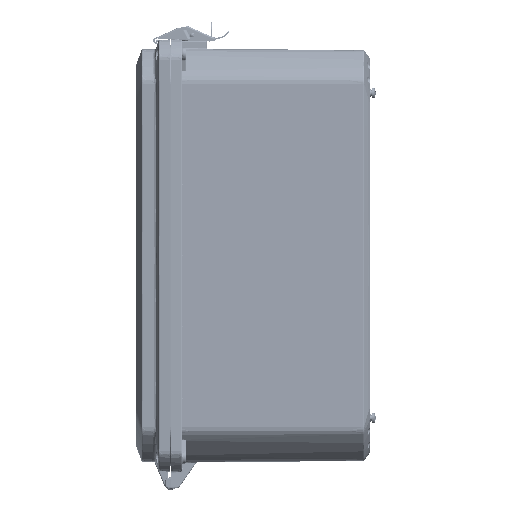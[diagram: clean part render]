
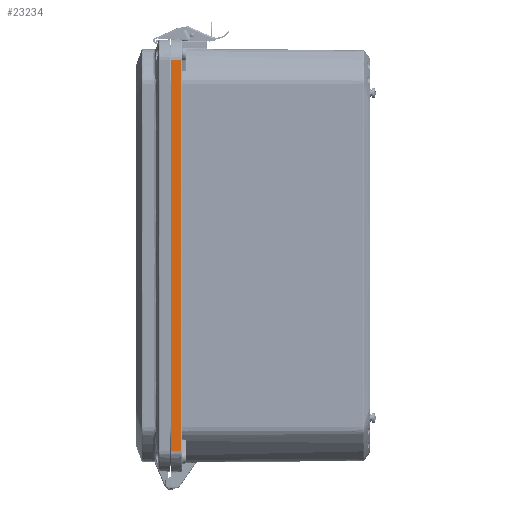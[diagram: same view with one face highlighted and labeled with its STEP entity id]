
A CAD part, left-side view. The second image highlights one B-rep face of the part: STEP entity #23234.
In plain terms, the highlighted planar face has unit normal (-0.999, -0.035, 0).
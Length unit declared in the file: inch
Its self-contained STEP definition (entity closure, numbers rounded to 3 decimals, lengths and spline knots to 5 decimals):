
#9098 = VECTOR ( 'NONE', #68903, 39.37008 ) ;
#19173 = LINE ( 'NONE', #111084, #161129 ) ;
#23234 = ADVANCED_FACE ( 'NONE', ( #142870 ), #234839, .T. ) ;
#41000 = EDGE_CURVE ( 'NONE', #51443, #263205, #127404, .T. ) ;
#44179 = ORIENTED_EDGE ( 'NONE', *, *, #268384, .F. ) ;
#44683 = CARTESIAN_POINT ( 'NONE',  ( -8.60772, -0.35174, -6.89046 ) ) ;
#51120 = EDGE_CURVE ( 'NONE', #51443, #80361, #94468, .T. ) ;
#51443 = VERTEX_POINT ( 'NONE', #104861 ) ;
#56845 = CARTESIAN_POINT ( 'NONE',  ( -8.62, 0., 6.89046 ) ) ;
#68903 = DIRECTION ( 'NONE',  ( 0., 0., 1. ) ) ;
#80361 = VERTEX_POINT ( 'NONE', #56845 ) ;
#94468 = LINE ( 'NONE', #230211, #9098 ) ;
#97624 = DIRECTION ( 'NONE',  ( -0.999, -0.035, 0. ) ) ;
#102344 = LINE ( 'NONE', #218370, #164880 ) ;
#104473 = CARTESIAN_POINT ( 'NONE',  ( -8.60772, -0.35174, 6.89046 ) ) ;
#104861 = CARTESIAN_POINT ( 'NONE',  ( -8.62, 0., -6.89046 ) ) ;
#107986 = DIRECTION ( 'NONE',  ( 0.035, -0.999, 0. ) ) ;
#111084 = CARTESIAN_POINT ( 'NONE',  ( -8.62, 0., 6.89046 ) ) ;
#121975 = DIRECTION ( 'NONE',  ( 0., 0., 1. ) ) ;
#127404 = LINE ( 'NONE', #217847, #187688 ) ;
#142870 = FACE_OUTER_BOUND ( 'NONE', #225108, .T. ) ;
#161129 = VECTOR ( 'NONE', #203031, 39.37008 ) ;
#164880 = VECTOR ( 'NONE', #121975, 39.37008 ) ;
#170617 = ORIENTED_EDGE ( 'NONE', *, *, #41000, .T. ) ;
#171115 = DIRECTION ( 'NONE',  ( 0.035, -0.999, 0. ) ) ;
#186368 = ORIENTED_EDGE ( 'NONE', *, *, #242901, .T. ) ;
#187688 = VECTOR ( 'NONE', #171115, 39.37008 ) ;
#188080 = CARTESIAN_POINT ( 'NONE',  ( -8.62, 0., 7.3 ) ) ;
#203031 = DIRECTION ( 'NONE',  ( 0.035, -0.999, 0. ) ) ;
#217847 = CARTESIAN_POINT ( 'NONE',  ( -8.62, 0., -6.89046 ) ) ;
#218370 = CARTESIAN_POINT ( 'NONE',  ( -8.60772, -0.35174, 6.89046 ) ) ;
#225108 = EDGE_LOOP ( 'NONE', ( #186368, #44179, #279032, #170617 ) ) ;
#230211 = CARTESIAN_POINT ( 'NONE',  ( -8.62, 0., 7.3 ) ) ;
#232225 = VERTEX_POINT ( 'NONE', #104473 ) ;
#234839 = PLANE ( 'NONE',  #257375 ) ;
#242901 = EDGE_CURVE ( 'NONE', #263205, #232225, #102344, .T. ) ;
#257375 = AXIS2_PLACEMENT_3D ( 'NONE', #188080, #97624, #107986 ) ;
#263205 = VERTEX_POINT ( 'NONE', #44683 ) ;
#268384 = EDGE_CURVE ( 'NONE', #80361, #232225, #19173, .T. ) ;
#279032 = ORIENTED_EDGE ( 'NONE', *, *, #51120, .F. ) ;
